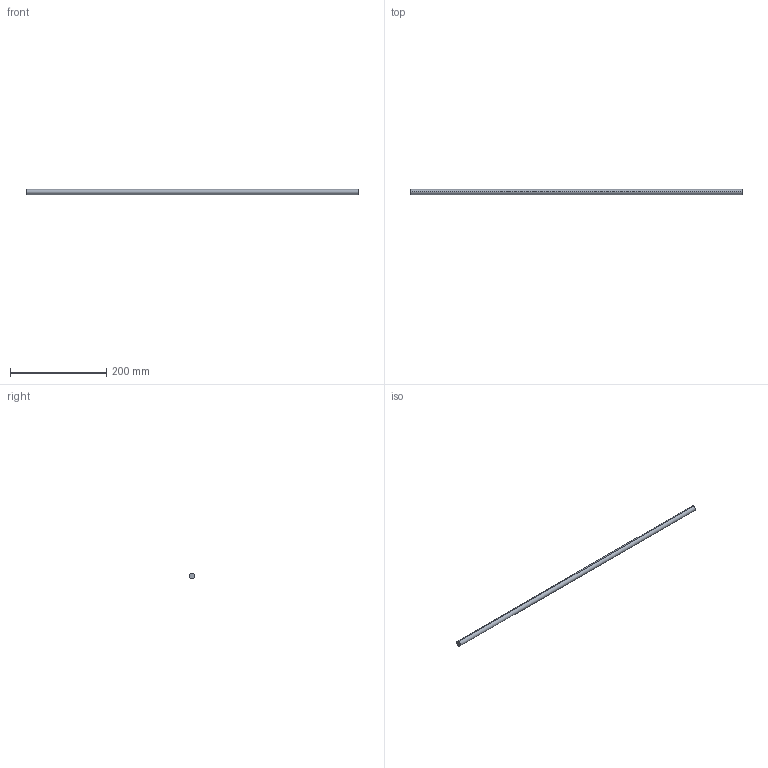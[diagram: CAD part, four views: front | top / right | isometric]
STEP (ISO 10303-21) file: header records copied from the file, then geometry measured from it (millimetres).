
FILE_DESCRIPTION (( 'STEP AP214' ), '1' );
FILE_NAME ('Querreling_Frontblende_Innenlade_KS-16_25mm-Halter_KAB-800.step', '2010-09-22T15:05:40', ( 'grass' ), ( '' ), 'SwSTEP 2.0', 'SolidWorks 2010', '' );
FILE_SCHEMA (( 'AUTOMOTIVE_DESIGN' ));
Length unit declared in the file: millimetre
Products named in the file (1): Querreling_Frontblende_Innenlade_KS-16_25mm-Halter_KAB-800
Bounding box: 690 x 11 x 11 mm (x, y, z)
Volume: 65572.9 mm3; surface area: 24034.8 mm2
Topology: 1 solids, 1 shells, 4 faces, 6 edges, 4 vertices
Faces by surface type: cylinder 2, plane 2
Entity records: 128 total; most frequent: DIRECTION 20, CARTESIAN_POINT 15, ORIENTED_EDGE 12, AXIS2_PLACEMENT_3D 9, EDGE_CURVE 6, EDGE_LOOP 4, CIRCLE 4, FACE_OUTER_BOUND 4
